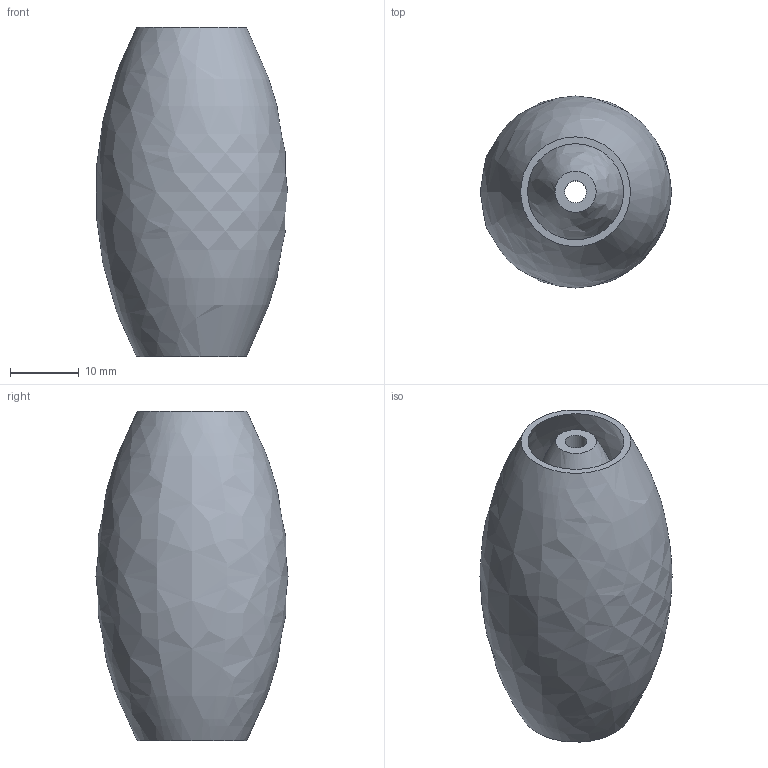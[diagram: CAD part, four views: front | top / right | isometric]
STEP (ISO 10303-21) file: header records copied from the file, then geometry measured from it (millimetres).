
FILE_DESCRIPTION(/* description */ (''),/* implementation_level */ '2;1');
FILE_NAME(/* name */ 'C:/Users/priba/Downloads/MecanumWheelRoller.step',/* time_stamp */ '2022-02-06T21:22:20+01:00',/* author */ (''),/* organization */ (''),/* preprocessor_version */ 'ST-DEVELOPER v18.1',/* originating_system */ 'Autodesk Translation Framework v10.13.0.1454',/* authorisation */ '');
FILE_SCHEMA (('AUTOMOTIVE_DESIGN { 1 0 10303 214 3 1 1 }'));
Length unit declared in the file: millimetre
Products named in the file (1): MecanumWheelRoller
Bounding box: 27.88 x 28 x 48 mm (x, y, z)
Volume: 6236.4 mm3; surface area: 12712.3 mm2
Topology: 1 solids, 2 shells, 10 faces, 16 edges, 10 vertices
Faces by surface type: bspline 4, plane 4, cylinder 2
Full cylindrical faces by diameter (mm): 3.2 x1, 5.2 x1
Entity records: 365 total; most frequent: CARTESIAN_POINT 141, DIRECTION 44, ORIENTED_EDGE 32, AXIS2_PLACEMENT_3D 21, EDGE_CURVE 16, EDGE_LOOP 14, CIRCLE 14, FACE_OUTER_BOUND 10
